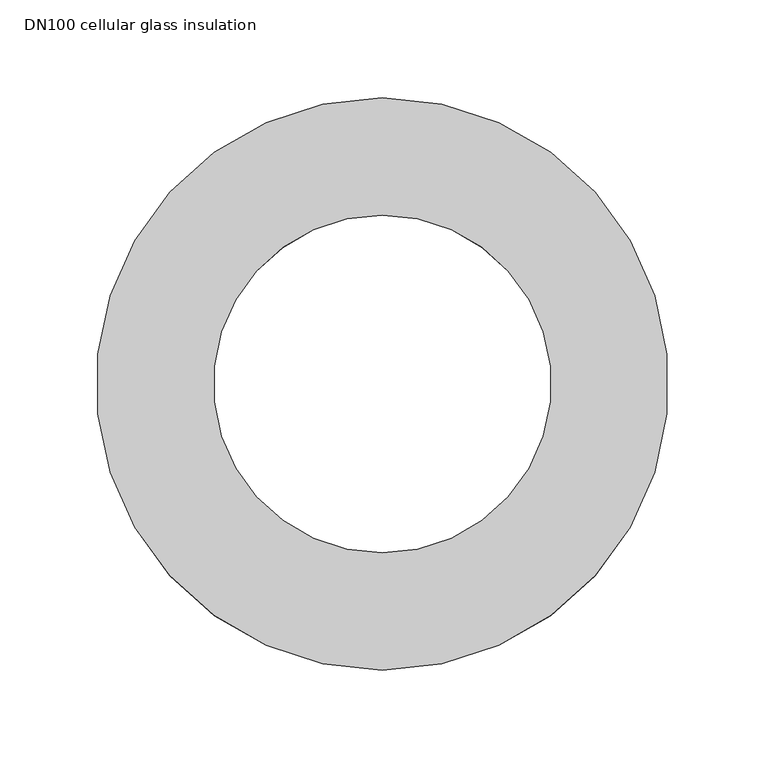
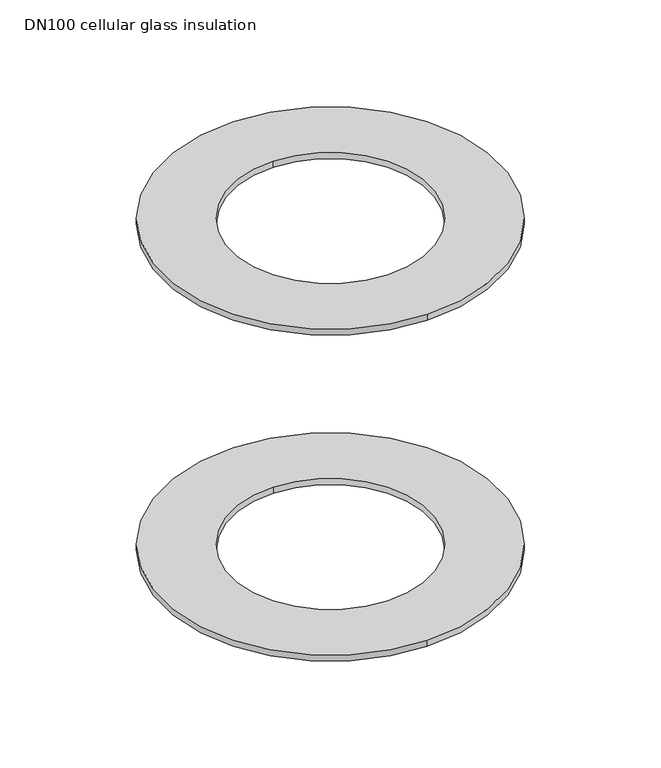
"""IFC4 building model written with IfcOpenShell, lengths in millimetres: sanitary terminal geometry, PF_GEN_spin complete gully fire protection double body_ACO : DN100 cellular glass insulation."""

from ifc_helpers import new_model, si_unit, point, frame, origin, origin_2d, place, context, project, spatial, circle_curve, trimmed, segment, composite_curve, outline, extrude, source, transform, mapped, element, save


def dn100_cellular_glass_insulation_01523197(model_context):
    return source(origin(), model_context, "Body", "SweptSolid", [
        extrude(outline(composite_curve([segment(trimmed(circle_curve(origin_2d(), 146.25), [point((0.0, 146.25))], [point((0.0, -146.25))], False, "CARTESIAN"), True, "CONTINUOUS"), segment(trimmed(circle_curve(origin_2d(), 146.25), [point((0.0, -146.25))], [point((0.0, 146.25))], False, "CARTESIAN"), True, "CONTINUOUS")], self_intersect=False), holes=[composite_curve([segment(trimmed(circle_curve(origin_2d(), 86.25), [point((0.0, 86.25))], [point((0.0, -86.25))], True, "CARTESIAN"), True, "CONTINUOUS"), segment(trimmed(circle_curve(origin_2d(), 86.25), [point((0.0, -86.25))], [point((0.0, 86.25))], True, "CARTESIAN"), True, "CONTINUOUS")], self_intersect=False)]), frame((0.0, 0.0, 305.0), z_axis=(0.0, 0.0, 1.0), x_axis=(1.0, 0.0, 0.0)), (0.0, 0.0, 1.0), 5.5),
        extrude(outline(composite_curve([segment(trimmed(circle_curve(origin_2d(), 146.25), [point((0.0, -146.25))], [point((0.0, 146.25))], False, "CARTESIAN"), True, "CONTINUOUS"), segment(trimmed(circle_curve(origin_2d(), 146.25), [point((0.0, 146.25))], [point((0.0, -146.25))], False, "CARTESIAN"), True, "CONTINUOUS")], self_intersect=False), holes=[composite_curve([segment(trimmed(circle_curve(origin_2d(), 86.25), [point((0.0, -86.25))], [point((0.0, 86.25))], True, "CARTESIAN"), True, "CONTINUOUS"), segment(trimmed(circle_curve(origin_2d(), 86.25), [point((0.0, 86.25))], [point((0.0, -86.25))], True, "CARTESIAN"), True, "CONTINUOUS")], self_intersect=False)]), frame((0.0, 0.0, 5.0), z_axis=(0.0, 0.0, 1.0), x_axis=(1.0, 0.0, 0.0)), (0.0, 0.0, 1.0), 5.5),
    ])


if __name__ == "__main__":
    model = new_model("IFC4")
    model_context = context("Model", 3, world=origin())
    ifc_project = project(units=[si_unit("LENGTHUNIT", "METRE", prefix="MILLI")], contexts=[model_context])
    site = spatial("IfcSite", under=ifc_project)
    building = spatial("IfcBuilding", under=site)
    placement = place(None, origin())
    dn100_cellular_glass_insulation_shape = dn100_cellular_glass_insulation_01523197(model_context)
    element("IfcSanitaryTerminal", 1, ObjectType="PF_GEN_spin complete gully fire protection double body_ACO : DN100 cellular glass insulation", at=placement, inside=building, context=model_context, shape_type="MappedRepresentation", body=[
        mapped(dn100_cellular_glass_insulation_shape, transform((0.0, 0.0, 0.0), x_axis=(1.0, 0.0, 0.0), y_axis=(0.0, 1.0, 0.0), z_axis=(0.0, 0.0, 1.0))),
    ])
    save(model, "model.ifc")
